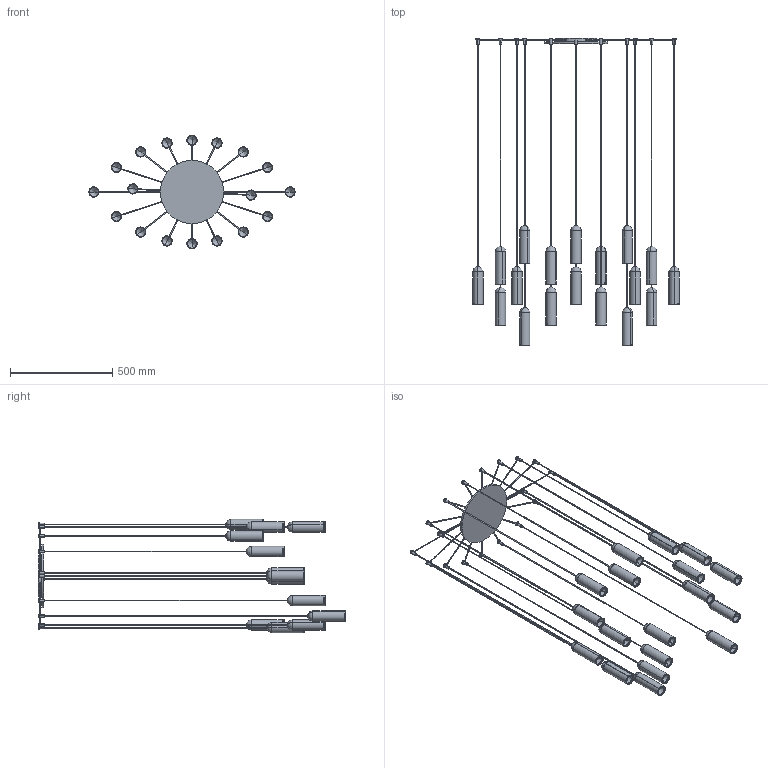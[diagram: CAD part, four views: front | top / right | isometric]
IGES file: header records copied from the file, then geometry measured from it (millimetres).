
Start section: SolidWorks IGES file using analytic representation for surfaces
Global section: file name: Y:\eforma\TECNICO\SOLIDWORKS\E-FORMA\09-LAMPADE\NANUM\08 modelli 3D web\NANA2-00-NANUM 18 A ROSONE CENTRALE.IGS; native system: SolidWorks 2022; preprocessor: SolidWorks 2022; author: eforma.tech; date: 240801.144451; units: millimetre
Bounding box: 1008.27 x 1500 x 554 mm (x, y, z)
Volume: 2860524.9 mm3; surface area: 1595095.6 mm2
Topology: 55 solids, 55 shells, 684 faces, 1362 edges, 789 vertices
Faces by surface type: revolution 553, plane 131
